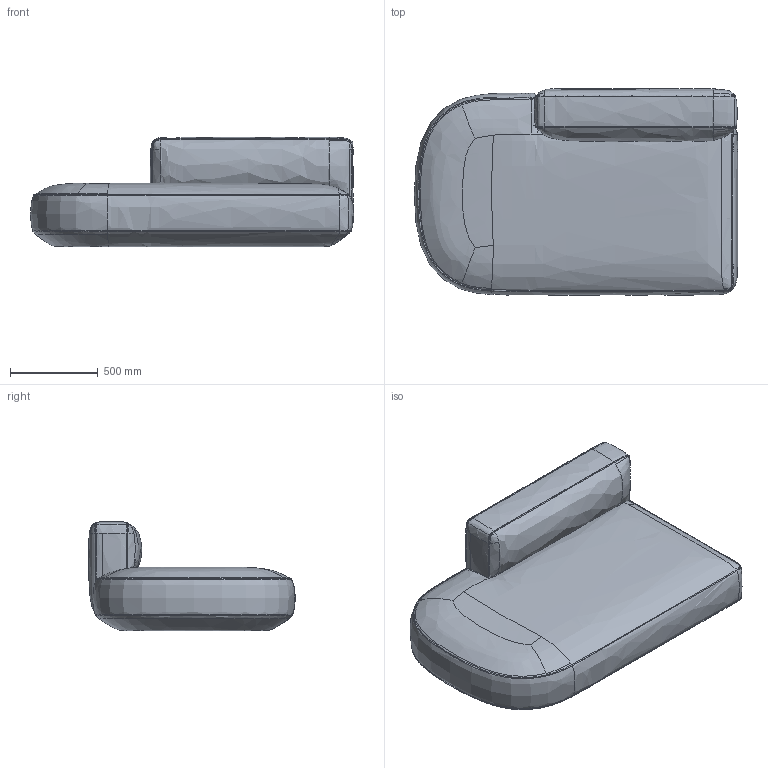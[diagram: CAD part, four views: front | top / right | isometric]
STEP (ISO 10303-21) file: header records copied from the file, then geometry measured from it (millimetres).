
FILE_DESCRIPTION(/* description */ (''),/* implementation_level */ '2;1');
FILE_NAME(/* name */ '300PC.stp',/* time_stamp */ '2026-01-14T15:01:50+01:00',/* author */ (''),/* organization */ (''),/* preprocessor_version */ 'ST-DEVELOPER v16.7',/* originating_system */ 'SIEMENS PLM Software NX 1934',/* authorisation */ '');
FILE_SCHEMA (('AUTOMOTIVE_DESIGN { 1 0 10303 214 3 1 1 1 }'));
Products named in the file (1): fran900883B0uo8y
Bounding box: 1844.72 x 1177.13 x 624.21 mm (x, y, z)
Volume: 756076002.4 mm3; surface area: 6144341.7 mm2
Topology: 1 solids, 1 shells, 209 faces, 618 edges, 411 vertices
Faces by surface type: bspline 185, cylinder 12, plane 12
Entity records: 38949 total; most frequent: CARTESIAN_POINT 34985, ORIENTED_EDGE 1236, EDGE_CURVE 618, B_SPLINE_CURVE_WITH_KNOTS 469, VERTEX_POINT 411, DIRECTION 220, ADVANCED_FACE 209, FACE_OUTER_BOUND 209
